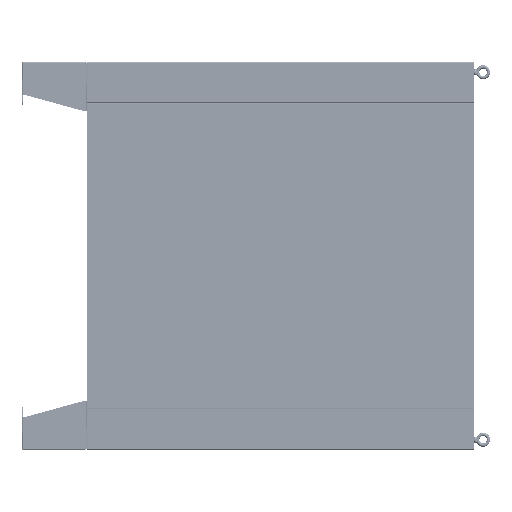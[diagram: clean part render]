
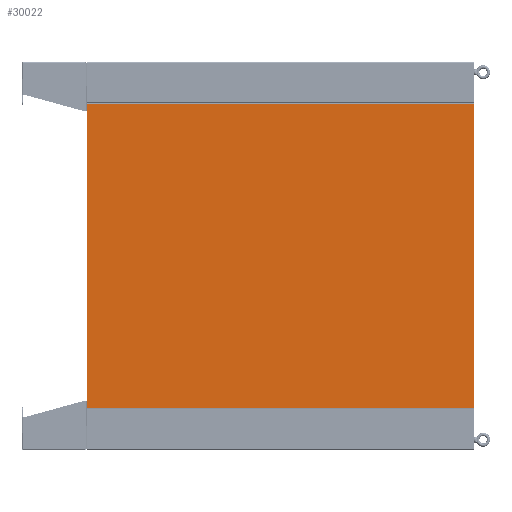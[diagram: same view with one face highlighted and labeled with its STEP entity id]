
A CAD part, left-side view. The second image highlights one B-rep face of the part: STEP entity #30022.
In plain terms, the highlighted planar face has unit normal (-1, 0, 0) as drawn and (0, 1, 0) by its records, which use the part's own axes.
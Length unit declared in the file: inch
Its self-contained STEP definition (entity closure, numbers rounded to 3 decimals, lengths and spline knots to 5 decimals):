
#28671=DIRECTION('',(-1.,0.,0.));
#28672=VECTOR('',#28671,56.622);
#28673=CARTESIAN_POINT('',(28.311,0.,35.896));
#28674=LINE('',#28673,#28672);
#28714=DIRECTION('',(0.,0.,1.));
#28715=VECTOR('',#28714,71.792);
#28716=CARTESIAN_POINT('',(28.311,0.,-35.896));
#28717=LINE('',#28716,#28715);
#28801=DIRECTION('',(-1.,0.,0.));
#28802=VECTOR('',#28801,56.622);
#28803=CARTESIAN_POINT('',(28.311,0.,-35.896));
#28804=LINE('',#28803,#28802);
#28844=DIRECTION('',(0.,0.,-1.));
#28845=VECTOR('',#28844,71.792);
#28846=CARTESIAN_POINT('',(-28.311,0.,35.896));
#28847=LINE('',#28846,#28845);
#29819=CARTESIAN_POINT('',(-28.311,0.,-35.896));
#29820=VERTEX_POINT('',#29819);
#29821=CARTESIAN_POINT('',(-28.311,0.,35.896));
#29822=VERTEX_POINT('',#29821);
#29835=CARTESIAN_POINT('',(28.311,0.,35.896));
#29836=VERTEX_POINT('',#29835);
#29837=CARTESIAN_POINT('',(28.311,0.,-35.896));
#29838=VERTEX_POINT('',#29837);
#30007=CARTESIAN_POINT('',(28.5,0.,35.896));
#30008=DIRECTION('',(0.,1.,0.));
#30009=DIRECTION('',(-1.,0.,0.));
#30010=AXIS2_PLACEMENT_3D('',#30007,#30008,#30009);
#30011=PLANE('',#30010);
#30013=ORIENTED_EDGE('',*,*,#30012,.T.);
#30015=ORIENTED_EDGE('',*,*,#30014,.T.);
#30017=ORIENTED_EDGE('',*,*,#30016,.F.);
#30019=ORIENTED_EDGE('',*,*,#30018,.T.);
#30020=EDGE_LOOP('',(#30013,#30015,#30017,#30019));
#30021=FACE_OUTER_BOUND('',#30020,.F.);
#30012=EDGE_CURVE('',#29836,#29822,#28674,.T.);
#30014=EDGE_CURVE('',#29822,#29820,#28847,.T.);
#30016=EDGE_CURVE('',#29838,#29820,#28804,.T.);
#30018=EDGE_CURVE('',#29838,#29836,#28717,.T.);
#30022=ADVANCED_FACE('',(#30021),#30011,.T.);
